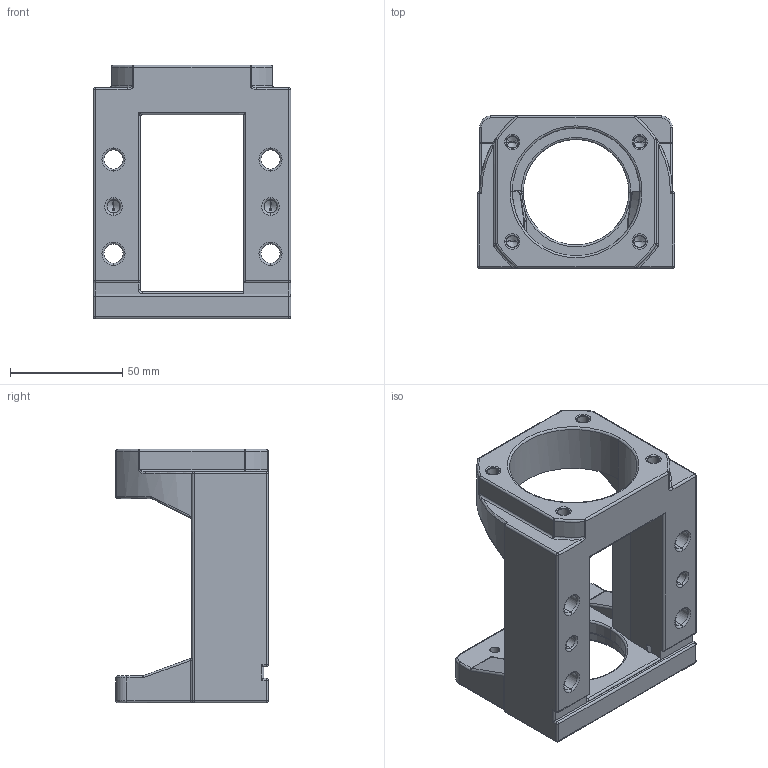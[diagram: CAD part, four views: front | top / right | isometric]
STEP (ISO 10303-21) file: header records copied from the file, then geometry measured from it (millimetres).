
FILE_DESCRIPTION (( 'STEP AP203' ), '1' );
FILE_NAME ('傳動座MBA20-D.STEP', '2011-09-29T00:59:02', ( '' ), ( '' ), 'SwSTEP 2.0', 'SolidWorks 2011', '' );
FILE_SCHEMA (( 'CONFIG_CONTROL_DESIGN' ));
Length unit declared in the file: millimetre
Products named in the file (1): 傳動座MBA20-D
Bounding box: 88 x 68 x 113 mm (x, y, z)
Volume: 208721 mm3; surface area: 48786.4 mm2
Topology: 1 solids, 1 shells, 342 faces, 810 edges, 440 vertices
Faces by surface type: cylinder 135, torus 72, plane 42, cone 34, bspline 34, sphere 25
Entity records: 10805 total; most frequent: CARTESIAN_POINT 3159, DIRECTION 1693, ORIENTED_EDGE 1546, EDGE_CURVE 773, AXIS2_PLACEMENT_3D 711, VERTEX_POINT 440, CIRCLE 402, EDGE_LOOP 371
